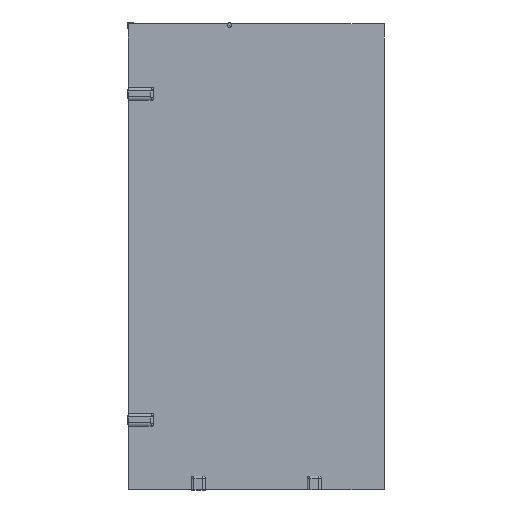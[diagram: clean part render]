
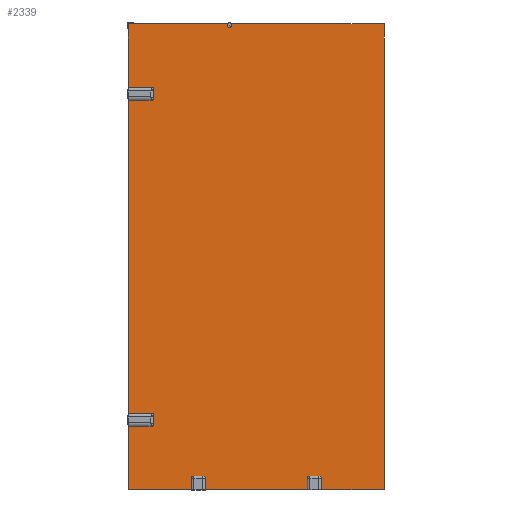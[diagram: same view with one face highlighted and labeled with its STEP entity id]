
A CAD part, front view. The second image highlights one B-rep face of the part: STEP entity #2339.
In plain terms, the highlighted planar face has unit normal (0, -1, 0) as drawn and (0, 1, 0) by its records, which use the part's own axes.
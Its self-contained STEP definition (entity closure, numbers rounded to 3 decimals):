
#287=LINE($,#3519,#426);
#288=LINE($,#3522,#427);
#289=LINE($,#3524,#428);
#290=LINE($,#3525,#429);
#426=VECTOR($,#2824,2000.);
#427=VECTOR($,#2827,1098.);
#428=VECTOR($,#2828,1098.);
#429=VECTOR($,#2829,2000.);
#563=PLANE($,#2521);
#636=FACE_BOUND($,#854,.T.);
#637=FACE_BOUND($,#855,.T.);
#638=FACE_BOUND($,#856,.T.);
#639=FACE_BOUND($,#857,.T.);
#640=FACE_BOUND($,#858,.T.);
#641=FACE_BOUND($,#859,.T.);
#642=FACE_BOUND($,#860,.T.);
#854=EDGE_LOOP($,(#1695));
#855=EDGE_LOOP($,(#1696));
#856=EDGE_LOOP($,(#1697));
#857=EDGE_LOOP($,(#1698));
#858=EDGE_LOOP($,(#1699));
#859=EDGE_LOOP($,(#1700));
#860=EDGE_LOOP($,(#1701,#1702,#1703,#1704));
#1053=CIRCLE($,#2504,8.);
#1055=CIRCLE($,#2507,8.);
#1056=CIRCLE($,#2509,8.);
#1058=CIRCLE($,#2512,8.);
#1060=CIRCLE($,#2515,8.);
#1062=CIRCLE($,#2518,8.);
#1165=VERTEX_POINT($,#3484);
#1167=VERTEX_POINT($,#3489);
#1168=VERTEX_POINT($,#3492);
#1170=VERTEX_POINT($,#3497);
#1172=VERTEX_POINT($,#3502);
#1174=VERTEX_POINT($,#3507);
#1176=VERTEX_POINT($,#3512);
#1179=VERTEX_POINT($,#3517);
#1180=VERTEX_POINT($,#3521);
#1181=VERTEX_POINT($,#3523);
#1377=EDGE_CURVE($,#1165,#1165,#1053,.T.);
#1379=EDGE_CURVE($,#1167,#1167,#1055,.T.);
#1380=EDGE_CURVE($,#1168,#1168,#1056,.T.);
#1382=EDGE_CURVE($,#1170,#1170,#1058,.T.);
#1384=EDGE_CURVE($,#1172,#1172,#1060,.T.);
#1386=EDGE_CURVE($,#1174,#1174,#1062,.T.);
#1391=EDGE_CURVE($,#1176,#1179,#287,.T.);
#1392=EDGE_CURVE($,#1180,#1176,#288,.T.);
#1393=EDGE_CURVE($,#1181,#1179,#289,.T.);
#1394=EDGE_CURVE($,#1180,#1181,#290,.T.);
#1695=ORIENTED_EDGE($,*,*,#1377,.T.);
#1696=ORIENTED_EDGE($,*,*,#1379,.T.);
#1697=ORIENTED_EDGE($,*,*,#1380,.T.);
#1698=ORIENTED_EDGE($,*,*,#1382,.T.);
#1699=ORIENTED_EDGE($,*,*,#1384,.T.);
#1700=ORIENTED_EDGE($,*,*,#1386,.T.);
#1701=ORIENTED_EDGE($,*,*,#1392,.T.);
#1702=ORIENTED_EDGE($,*,*,#1391,.T.);
#1703=ORIENTED_EDGE($,*,*,#1393,.F.);
#1704=ORIENTED_EDGE($,*,*,#1394,.F.);
#2339=ADVANCED_FACE($,(#636,#637,#638,#639,#640,#641,#642),#563,.T.);
#2504=AXIS2_PLACEMENT_3D($,#3485,#2787,#2788);
#2507=AXIS2_PLACEMENT_3D($,#3490,#2793,#2794);
#2509=AXIS2_PLACEMENT_3D($,#3493,#2797,#2798);
#2512=AXIS2_PLACEMENT_3D($,#3498,#2803,#2804);
#2515=AXIS2_PLACEMENT_3D($,#3503,#2809,#2810);
#2518=AXIS2_PLACEMENT_3D($,#3508,#2815,#2816);
#2521=AXIS2_PLACEMENT_3D($,#3520,#2825,#2826);
#2787=DIRECTION('center_axis',(0.,-1.,0.));
#2788=DIRECTION('ref_axis',(-1.,0.,0.));
#2793=DIRECTION('center_axis',(0.,-1.,0.));
#2794=DIRECTION('ref_axis',(-1.,0.,0.));
#2797=DIRECTION('center_axis',(0.,-1.,0.));
#2798=DIRECTION('ref_axis',(-1.,0.,0.));
#2803=DIRECTION('center_axis',(0.,-1.,0.));
#2804=DIRECTION('ref_axis',(-1.,0.,0.));
#2809=DIRECTION('center_axis',(0.,-1.,0.));
#2810=DIRECTION('ref_axis',(-1.,0.,0.));
#2815=DIRECTION('center_axis',(0.,-1.,0.));
#2816=DIRECTION('ref_axis',(-1.,0.,0.));
#2824=DIRECTION($,(0.,0.,1.));
#2825=DIRECTION('center_axis',(0.,1.,0.));
#2826=DIRECTION('ref_axis',(-1.,0.,0.));
#2827=DIRECTION($,(-1.,0.,0.));
#2828=DIRECTION($,(-1.,0.,0.));
#2829=DIRECTION($,(0.,0.,1.));
#3484=CARTESIAN_POINT('',(308.,8.,1970.));
#3485=CARTESIAN_POINT('Origin',(300.,8.,1970.));
#3489=CARTESIAN_POINT('',(806.,8.,1970.));
#3490=CARTESIAN_POINT('Origin',(798.,8.,1970.));
#3492=CARTESIAN_POINT('',(42.,8.,1700.));
#3493=CARTESIAN_POINT('Origin',(34.,8.,1700.));
#3497=CARTESIAN_POINT('',(74.,8.,1700.));
#3498=CARTESIAN_POINT('Origin',(66.,8.,1700.));
#3502=CARTESIAN_POINT('',(74.,8.,300.));
#3503=CARTESIAN_POINT('Origin',(66.,8.,300.));
#3507=CARTESIAN_POINT('',(42.,8.,300.));
#3508=CARTESIAN_POINT('Origin',(34.,8.,300.));
#3512=CARTESIAN_POINT('',(0.,8.,0.));
#3517=CARTESIAN_POINT('',(0.,8.,2000.));
#3519=CARTESIAN_POINT($,(0.,8.,0.));
#3520=CARTESIAN_POINT('Origin',(1098.,8.,0.));
#3521=CARTESIAN_POINT('',(1098.,8.,0.));
#3522=CARTESIAN_POINT($,(1098.,8.,0.));
#3523=CARTESIAN_POINT('',(1098.,8.,2000.));
#3524=CARTESIAN_POINT($,(1098.,8.,2000.));
#3525=CARTESIAN_POINT($,(1098.,8.,0.));
